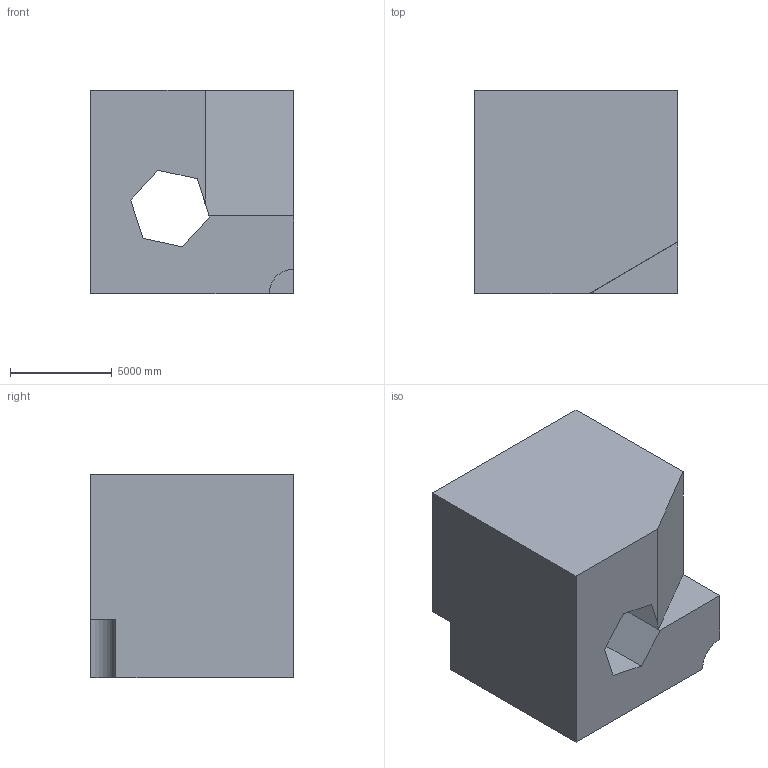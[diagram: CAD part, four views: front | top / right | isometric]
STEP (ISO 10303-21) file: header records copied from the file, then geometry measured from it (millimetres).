
FILE_DESCRIPTION (( 'STEP AP203' ), '1' );
FILE_NAME ('369.STEP', '2022-07-29T11:01:38', ( 'user' ), ( '' ), 'SwSTEP 2.0', 'SolidWorks 2021', '' );
FILE_SCHEMA (( 'CONFIG_CONTROL_DESIGN' ));
Length unit declared in the file: centimetre
Products named in the file (1): 369
Bounding box: 10000 x 10000 x 10000 mm (x, y, z)
Volume: 857313961362.7 mm3; surface area: 684067013 mm2
Topology: 1 solids, 1 shells, 18 faces, 51 edges, 34 vertices
Faces by surface type: plane 16, cylinder 2
Entity records: 660 total; most frequent: CARTESIAN_POINT 104, ORIENTED_EDGE 102, DIRECTION 93, EDGE_CURVE 51, VECTOR 47, LINE 47, VERTEX_POINT 34, AXIS2_PLACEMENT_3D 23
